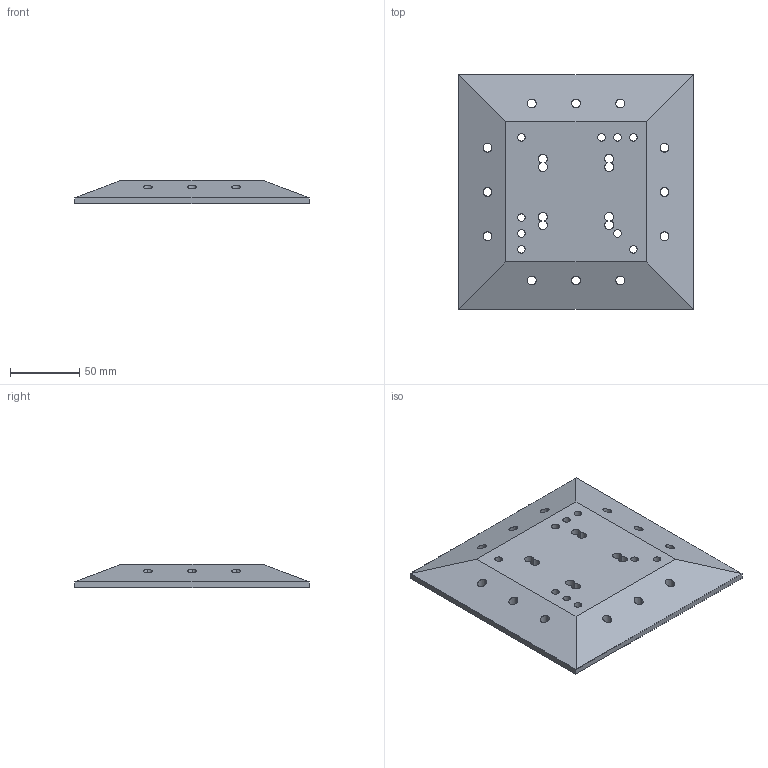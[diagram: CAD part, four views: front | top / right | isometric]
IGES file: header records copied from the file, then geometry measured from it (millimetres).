
Start section: Data from XPlus IGES,  Spatial Corp. Copyright (c) 1999-2004
Global section: file name: 9243049.igs; native system:  By Spatial Corp.; preprocessor: XPlus ACIS/IGES 3.0; author: Noname; organization: Noname; date: 20180220.172243; units: millimetre
Bounding box: 169.84 x 169.84 x 17 mm (x, y, z)
Surface area: 68034 mm2 (no closed solid volume)
Topology: 0 solids, 0 shells, 68 faces, 436 edges, 436 vertices
Faces by surface type: revolution 58, extrusion 10
